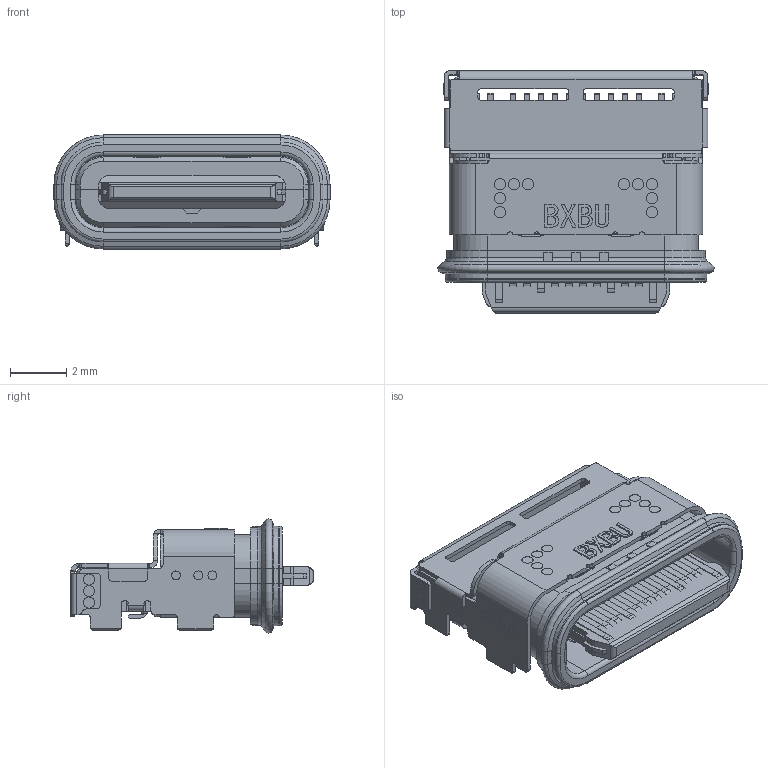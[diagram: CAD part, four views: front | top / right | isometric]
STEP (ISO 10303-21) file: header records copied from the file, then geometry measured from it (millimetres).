
FILE_DESCRIPTION (( 'STEP AP203' ), '1' );
FILE_NAME ('U5033-24PNW8.65LF(1).STEP', '2026-08-12T06:37:31', ( '' ), ( '' ), 'SwSTEP 2.0', 'SolidWorks 2020', '' );
FILE_SCHEMA (( 'CONFIG_CONTROL_DESIGN' ));
Length unit declared in the file: millimetre
Products named in the file (37): B11.stp; A8.stp; A4.stp; H-2_X2_6B21_X0_MOLDING.stp; T-_X2_4E0B_X0__ASM.stp; LATCH.stp; B3.stp; T_X2_FF0D4E0A_X0__ASM.stp; _X2_4E0B6392_X0_MOLDING_ASM.stp; B9_2.stp; A3.stp; A1.stp; U5033-24PNW8.65LF(1); B2.stp; _X2_FF335185FF0D62C94F38_X0_.stp; A2.stp; _X2_80F65708_X0_.stp; H-_X2_4E0B_X0__1.stp; A9.stp; A10.stp; A6.stp; TYPE-C_24P-SHELL.stp; A12.stp; B5.stp; A7.stp; TYPE-C-24P_X2_96326C34_X0__ASM.stp; B10.stp; _X2_4E0A6392_X0_MOLDING_ASM.stp; B4.stp; B12.stp; B6.stp; H-__X2_4E0A_X0_.stp; A5.stp; B1.stp; A11.stp; B7.stp; B8.stp
Assembly tree (36 placements, depth 5):
  U5033-24PNW8.65LF(1)
    TYPE-C-24P_X2_96326C34_X0__ASM.stp
      _X2_4E0B6392_X0_MOLDING_ASM.stp
        T-_X2_4E0B_X0__ASM.stp
          B8.stp
          B6.stp
          B11.stp
          B2.stp
          B12.stp
          B3.stp
          B5.stp
          B4.stp
          B1.stp
          B9_2.stp
          B10.stp
          B7.stp
        H-_X2_4E0B_X0__1.stp
      _X2_4E0A6392_X0_MOLDING_ASM.stp
        T_X2_FF0D4E0A_X0__ASM.stp
          A1.stp
          A3.stp
          A4.stp
          A12.stp
          A6.stp
          A11.stp
          A9.stp
          A8.stp
          A10.stp
          A7.stp
          A2.stp
          A5.stp
        H-__X2_4E0A_X0_.stp
      _X2_80F65708_X0_.stp
      LATCH.stp
      H-2_X2_6B21_X0_MOLDING.stp
      _X2_FF335185FF0D62C94F38_X0_.stp
    TYPE-C_24P-SHELL.stp
Bounding box: 9.85 x 8.65 x 4.07 mm (x, y, z)
Volume: 108.7 mm3; surface area: 1062.5 mm2
Topology: 32 solids, 32 shells, 2867 faces, 7830 edges, 5079 vertices
Faces by surface type: plane 1950, cylinder 750, torus 56, bspline 49, cone 44, sphere 18
Entity records: 96059 total; most frequent: CARTESIAN_POINT 18895, ORIENTED_EDGE 15624, DIRECTION 14812, EDGE_CURVE 7812, VECTOR 5916, LINE 5916, VERTEX_POINT 5079, AXIS2_PLACEMENT_3D 4448
